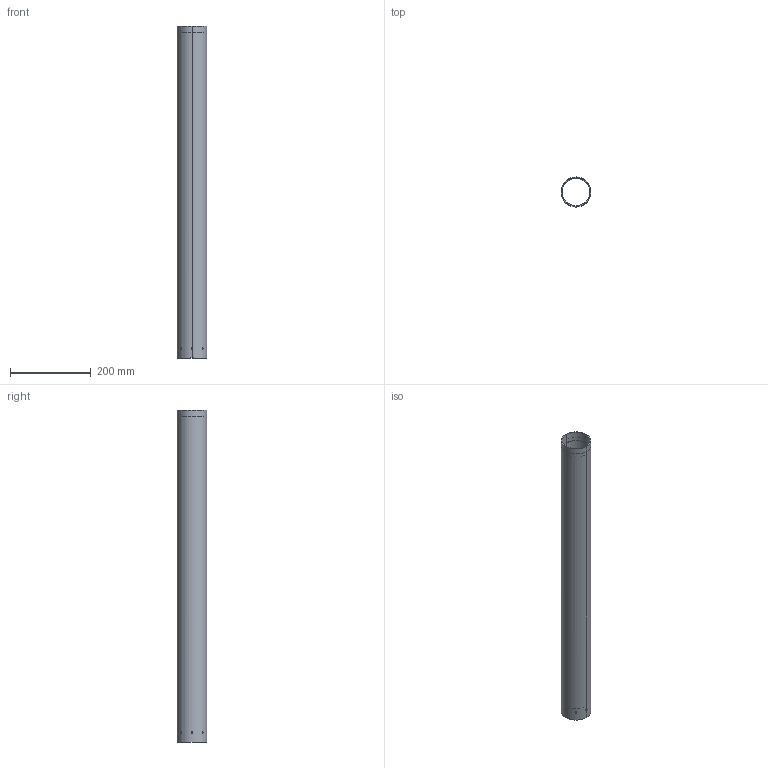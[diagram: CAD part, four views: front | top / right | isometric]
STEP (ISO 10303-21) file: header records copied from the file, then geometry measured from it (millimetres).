
FILE_DESCRIPTION(/* description */ ('(C) Elphel, Inc. 2012. Licensed under CERN OHL v.1.1 or later, see http://ohwr.org/cernohl'),/* implementation_level */ '2;1');
FILE_NAME(/* name */ '0353-10-23',/* time_stamp */ '2012-11-19T14:39:06-07:00',/* author */ (''),/* organization */ ('Elphel, Inc'),/* preprocessor_version */ 'ST-DEVELOPER v12',/* originating_system */ 'VariCAD 2012-1.04; kernel version (20100102)',/* authorisation */ '');
FILE_SCHEMA (('CONFIG_CONTROL_DESIGN'));
Length unit declared in the file: millimetre
Products named in the file (1): Part
Bounding box: 73.03 x 73.03 x 820 mm (x, y, z)
Volume: 379214 mm3; surface area: 366447.9 mm2
Topology: 1 solids, 1 shells, 31 faces, 90 edges, 60 vertices
Faces by surface type: cylinder 26, plane 5
Entity records: 1466 total; most frequent: CARTESIAN_POINT 623, ORIENTED_EDGE 180, DIRECTION 136, EDGE_CURVE 90, VERTEX_POINT 60, AXIS2_PLACEMENT_3D 53, EDGE_LOOP 48, B_SPLINE_CURVE_WITH_KNOTS 40
